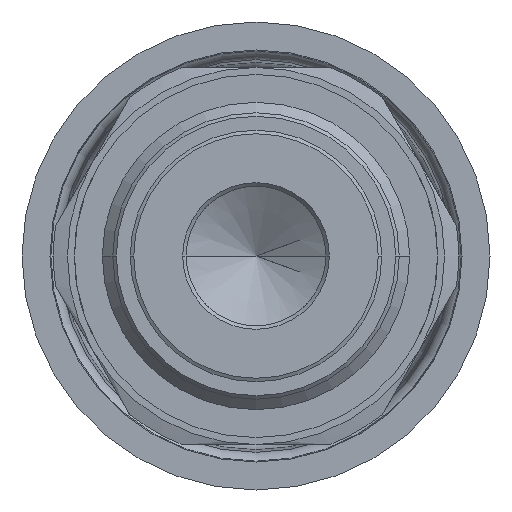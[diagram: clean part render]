
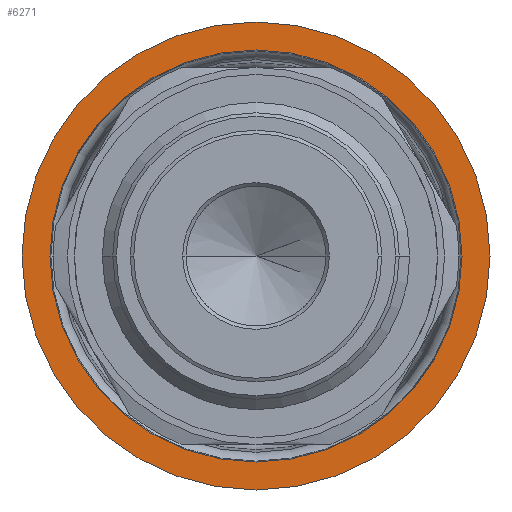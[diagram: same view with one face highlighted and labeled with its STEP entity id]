
A CAD part, front view. The second image highlights one B-rep face of the part: STEP entity #6271.
In plain terms, the highlighted planar face has unit normal (0, -1, 0).
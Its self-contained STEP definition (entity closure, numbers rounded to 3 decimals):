
#5976=CARTESIAN_POINT('',(0.,63.,0.));
#5977=DIRECTION('',(0.,1.,0.));
#5978=DIRECTION('',(1.,0.,0.));
#5979=AXIS2_PLACEMENT_3D('',#5976,#5977,#5978);
#5981=CARTESIAN_POINT('',(0.,63.,0.));
#5982=DIRECTION('',(0.,1.,0.));
#5983=DIRECTION('',(-1.,0.,0.));
#5984=AXIS2_PLACEMENT_3D('',#5981,#5982,#5983);
#5986=CARTESIAN_POINT('',(0.,63.,0.));
#5987=DIRECTION('',(0.,-1.,0.));
#5988=DIRECTION('',(1.,0.,0.));
#5989=AXIS2_PLACEMENT_3D('',#5986,#5987,#5988);
#5991=CARTESIAN_POINT('',(0.,63.,0.));
#5992=DIRECTION('',(0.,-1.,0.));
#5993=DIRECTION('',(-1.,0.,0.));
#5994=AXIS2_PLACEMENT_3D('',#5991,#5992,#5993);
#6004=CARTESIAN_POINT('',(-16.75,63.,0.));
#6006=VERTEX_POINT('',#6004);
#6010=CARTESIAN_POINT('',(16.75,63.,0.));
#6011=VERTEX_POINT('',#6010);
#6012=CARTESIAN_POINT('',(14.749,63.,0.));
#6013=CARTESIAN_POINT('',(-14.749,63.,0.));
#6014=VERTEX_POINT('',#6012);
#6015=VERTEX_POINT('',#6013);
#6256=CARTESIAN_POINT('',(0.,63.,0.));
#6257=DIRECTION('',(0.,-1.,0.));
#6258=DIRECTION('',(-1.,0.,0.));
#6259=AXIS2_PLACEMENT_3D('',#6256,#6257,#6258);
#6260=PLANE('',#6259);
#6262=ORIENTED_EDGE('',*,*,#6261,.T.);
#6264=ORIENTED_EDGE('',*,*,#6263,.T.);
#6265=EDGE_LOOP('',(#6262,#6264));
#6266=FACE_OUTER_BOUND('',#6265,.F.);
#6267=ORIENTED_EDGE('',*,*,#6235,.T.);
#6268=ORIENTED_EDGE('',*,*,#6251,.T.);
#6269=EDGE_LOOP('',(#6267,#6268));
#6270=FACE_BOUND('',#6269,.F.);
#5980=CIRCLE('',#5979,16.75);
#5985=CIRCLE('',#5984,16.75);
#5990=CIRCLE('',#5989,14.749);
#5995=CIRCLE('',#5994,14.749);
#6235=EDGE_CURVE('',#6014,#6015,#5990,.T.);
#6251=EDGE_CURVE('',#6015,#6014,#5995,.T.);
#6261=EDGE_CURVE('',#6011,#6006,#5980,.T.);
#6263=EDGE_CURVE('',#6006,#6011,#5985,.T.);
#6271=ADVANCED_FACE('',(#6266,#6270),#6260,.T.);
